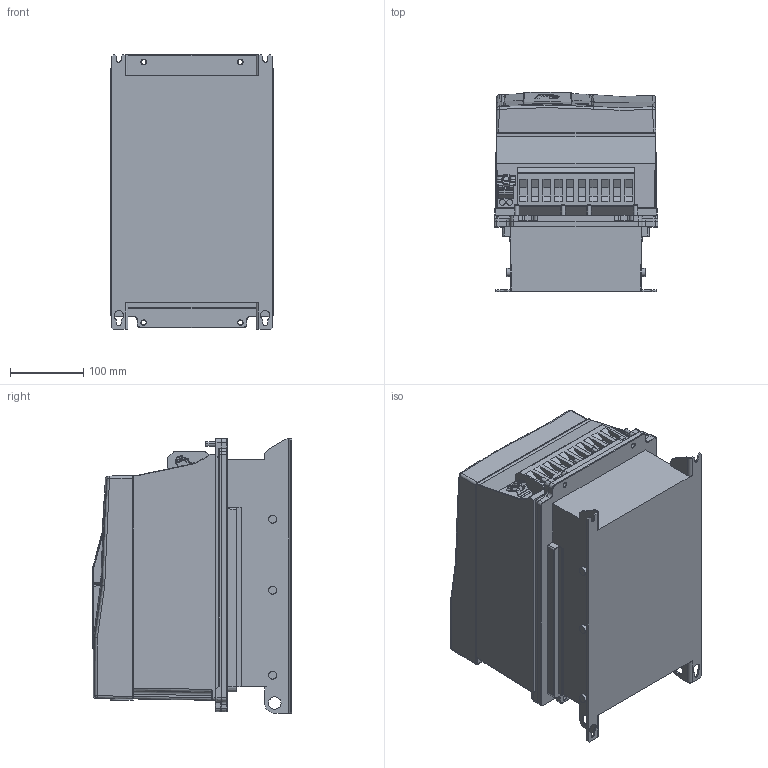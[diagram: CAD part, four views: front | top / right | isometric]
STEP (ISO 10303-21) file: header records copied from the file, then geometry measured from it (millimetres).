
FILE_DESCRIPTION (( 'STEP AP214' ), '1' );
FILE_NAME ('F6-4TR0-A030.STEP', '2020-12-08T10:55:42', ( '' ), ( '' ), 'SwSTEP 2.0', 'SolidWorks 2019', '' );
FILE_SCHEMA (( 'AUTOMOTIVE_DESIGN' ));
Length unit declared in the file: millimetre
Products named in the file (11): 10059765_000; 10045808_000_Basis Leistungsteil TR0 (Kundenmodell); F6-4TR0-A030; 10059763_000; 10059764_000_Blindabdeckung (Kundenmodell); 10032600_000_Kundenmodell; 10058468_000; 10058448_000; 10061644_000_Deckel (Kundenmodell); 10061645_000; 10035736_000_Kundenmodell
Assembly tree (10 placements, depth 4):
  F6-4TR0-A030
    10045808_000_Basis Leistungsteil TR0 (Kundenmodell)
      10058468_000
    10032600_000_Kundenmodell
      10061644_000_Deckel (Kundenmodell)
        10061645_000
      10058448_000
    10035736_000_Kundenmodell
      10059764_000_Blindabdeckung (Kundenmodell)
        10059765_000
      10059763_000
Bounding box: 224 x 272.2 x 375.2 mm (x, y, z)
Volume: 17453910.8 mm3; surface area: 894911.3 mm2
Topology: 11 solids, 30 shells, 2646 faces, 6815 edges, 4259 vertices
Faces by surface type: plane 1142, cylinder 639, bspline 535, torus 163, cone 127, sphere 40
Entity records: 101778 total; most frequent: CARTESIAN_POINT 40257, ORIENTED_EDGE 13496, DIRECTION 11315, EDGE_CURVE 6748, VERTEX_POINT 4257, VECTOR 3857, LINE 3857, AXIS2_PLACEMENT_3D 3729
